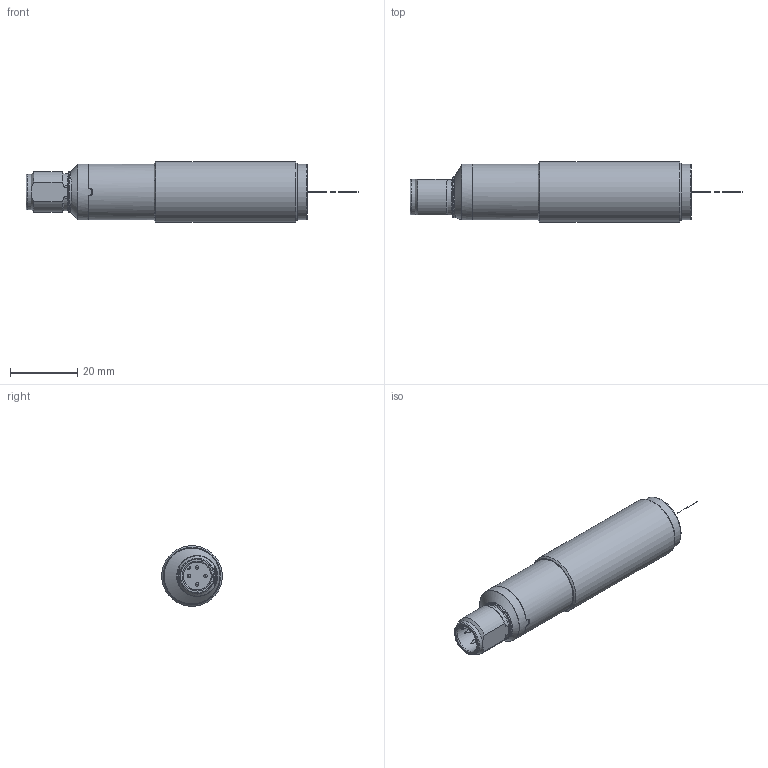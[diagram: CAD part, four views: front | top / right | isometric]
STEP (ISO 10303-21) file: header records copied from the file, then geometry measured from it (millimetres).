
FILE_DESCRIPTION(/* description */ (''),/* implementation_level */ '2;1');
FILE_NAME(/* name */ 'DSD-007 S5-5-F8-92-SG-ST2.stp',/* time_stamp */ '2020-07-24T09:04:48+02:00',/* author */ (''),/* organization */ (''),/* preprocessor_version */ 'ST-DEVELOPER v16.7',/* originating_system */ 'SIEMENS PLM Software NX 12.0',/* authorisation */ '');
FILE_SCHEMA (('AUTOMOTIVE_DESIGN { 1 0 10303 214 3 1 1 1 }'));
Length unit declared in the file: millimetre
Products named in the file (1): FGut30D8E90Fyoji
Bounding box: 98.5 x 18 x 18 mm (x, y, z)
Surface area: 5063.9 mm2 (no closed solid volume)
Topology: 0 solids, 94 shells, 94 faces, 387 edges, 362 vertices
Faces by surface type: cylinder 36, plane 29, cone 12, bspline 11, torus 6
Full cylindrical faces by diameter (mm): 0.1 x3, 1 x4, 8.3 x1, 10.5 x1, 12.1 x1, 16.55 x2, 16.6 x1, 18 x1
Entity records: 6157 total; most frequent: CARTESIAN_POINT 2644, DIRECTION 488, ORIENTED_EDGE 362, VERTEX_POINT 362, EDGE_CURVE 362, AXIS2_PLACEMENT_3D 188, EDGE_LOOP 128, LINE 112
